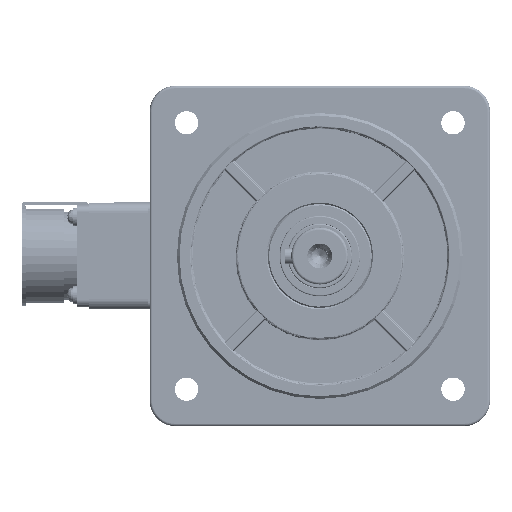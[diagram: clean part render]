
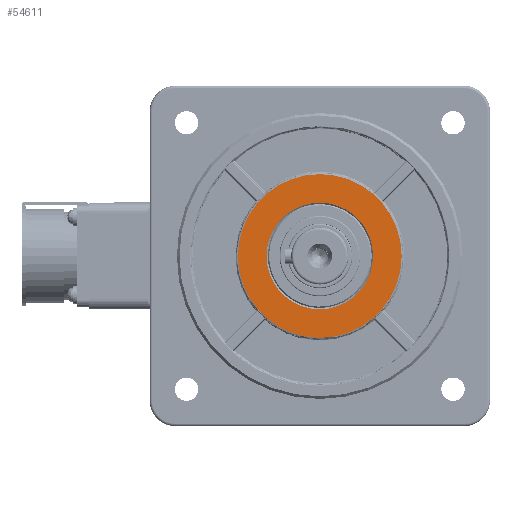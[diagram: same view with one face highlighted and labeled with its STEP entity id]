
A CAD part, left-side view. The second image highlights one B-rep face of the part: STEP entity #54611.
In plain terms, the highlighted planar face has unit normal (-1, 0, 0) as drawn and (1, 0, 0) by its records, which use the part's own axes.
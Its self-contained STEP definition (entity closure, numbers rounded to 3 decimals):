
#2123 = ORIENTED_EDGE ( 'NONE', *, *, #97408, .T. ) ;
#8036 = DIRECTION ( 'NONE',  ( 0., 0., 1. ) ) ;
#11698 = CIRCLE ( 'NONE', #77391, 31.5 ) ;
#11905 = CARTESIAN_POINT ( 'NONE',  ( 30., 0., 0. ) ) ;
#13906 = DIRECTION ( 'NONE',  ( 1., 0., 0. ) ) ;
#13930 = EDGE_LOOP ( 'NONE', ( #53867, #2123 ) ) ;
#15223 = DIRECTION ( 'NONE',  ( 0., 0., 1. ) ) ;
#16850 = PLANE ( 'NONE',  #108065 ) ;
#20936 = CIRCLE ( 'NONE', #35947, 20.5 ) ;
#26065 = ORIENTED_EDGE ( 'NONE', *, *, #88320, .T. ) ;
#26293 = CARTESIAN_POINT ( 'NONE',  ( 30., 0., -20.5 ) ) ;
#30517 = DIRECTION ( 'NONE',  ( 0., 0., 1. ) ) ;
#31720 = EDGE_CURVE ( 'NONE', #101240, #72726, #41188, .T. ) ;
#35947 = AXIS2_PLACEMENT_3D ( 'NONE', #11905, #47717, #83581 ) ;
#41188 = CIRCLE ( 'NONE', #106927, 31.5 ) ;
#47717 = DIRECTION ( 'NONE',  ( -1., 0., 0. ) ) ;
#49722 = DIRECTION ( 'NONE',  ( 0., 0., 1. ) ) ;
#51202 = CIRCLE ( 'NONE', #66241, 20.5 ) ;
#52684 = CARTESIAN_POINT ( 'NONE',  ( 30., 20., 0. ) ) ;
#53867 = ORIENTED_EDGE ( 'NONE', *, *, #97643, .T. ) ;
#54611 = ADVANCED_FACE ( 'NONE', ( #61492, #97380 ), #16850, .F. ) ;
#58571 = CARTESIAN_POINT ( 'NONE',  ( 30., 0., 20.5 ) ) ;
#59849 = CARTESIAN_POINT ( 'NONE',  ( 30., 0., 0. ) ) ;
#61492 = FACE_BOUND ( 'NONE', #13930, .T. ) ;
#63295 = EDGE_LOOP ( 'NONE', ( #26065, #106330 ) ) ;
#66241 = AXIS2_PLACEMENT_3D ( 'NONE', #75212, #111057, #30517 ) ;
#69878 = VERTEX_POINT ( 'NONE', #26293 ) ;
#72726 = VERTEX_POINT ( 'NONE', #91452 ) ;
#75212 = CARTESIAN_POINT ( 'NONE',  ( 30., 0., 0. ) ) ;
#77391 = AXIS2_PLACEMENT_3D ( 'NONE', #59849, #95753, #15223 ) ;
#83320 = VERTEX_POINT ( 'NONE', #58571 ) ;
#83581 = DIRECTION ( 'NONE',  ( 0., 0., 1. ) ) ;
#88320 = EDGE_CURVE ( 'NONE', #72726, #101240, #11698, .T. ) ;
#88591 = DIRECTION ( 'NONE',  ( -1., 0., 0. ) ) ;
#91452 = CARTESIAN_POINT ( 'NONE',  ( 30., 0., 31.5 ) ) ;
#94439 = CARTESIAN_POINT ( 'NONE',  ( 30., 0., 0. ) ) ;
#95753 = DIRECTION ( 'NONE',  ( 1., 0., 0. ) ) ;
#97380 = FACE_OUTER_BOUND ( 'NONE', #63295, .T. ) ;
#97408 = EDGE_CURVE ( 'NONE', #83320, #69878, #51202, .T. ) ;
#97643 = EDGE_CURVE ( 'NONE', #69878, #83320, #20936, .T. ) ;
#101240 = VERTEX_POINT ( 'NONE', #111164 ) ;
#106330 = ORIENTED_EDGE ( 'NONE', *, *, #31720, .T. ) ;
#106927 = AXIS2_PLACEMENT_3D ( 'NONE', #94439, #13906, #49722 ) ;
#108065 = AXIS2_PLACEMENT_3D ( 'NONE', #52684, #88591, #8036 ) ;
#111057 = DIRECTION ( 'NONE',  ( -1., 0., 0. ) ) ;
#111164 = CARTESIAN_POINT ( 'NONE',  ( 30., 0., -31.5 ) ) ;
